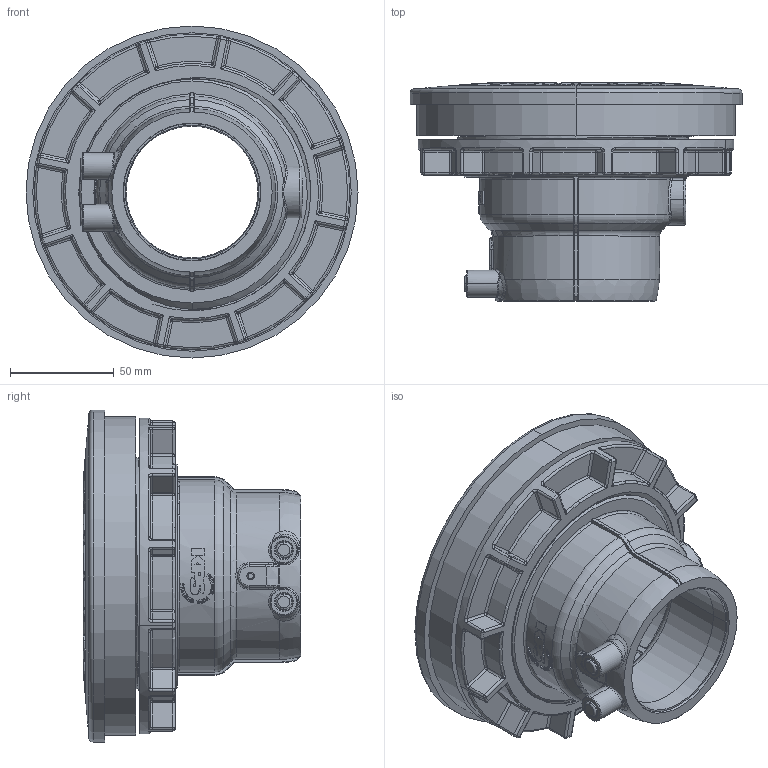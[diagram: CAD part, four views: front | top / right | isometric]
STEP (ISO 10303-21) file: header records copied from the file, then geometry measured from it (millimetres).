
FILE_DESCRIPTION (( 'STEP AP214' ), '1' );
FILE_NAME ('KP TM63-B.STEP', '2014-12-15T07:50:45', ( '' ), ( '' ), 'SwSTEP 2.0', 'SolidWorks 2014', '' );
FILE_SCHEMA (( 'AUTOMOTIVE_DESIGN' ));
Length unit declared in the file: millimetre
Products named in the file (1): KP TM63-B
Bounding box: 160 x 105.04 x 160 mm (x, y, z)
Volume: 653728.6 mm3; surface area: 178953.1 mm2
Topology: 4 solids, 10 shells, 1718 faces, 4260 edges, 2489 vertices
Faces by surface type: bspline 518, plane 456, cylinder 377, torus 186, sphere 94, cone 87
Entity records: 73542 total; most frequent: CARTESIAN_POINT 37056, ORIENTED_EDGE 8228, DIRECTION 6154, EDGE_CURVE 4114, VERTEX_POINT 2487, AXIS2_PLACEMENT_3D 2480, EDGE_LOOP 1803, FACE_OUTER_BOUND 1718
